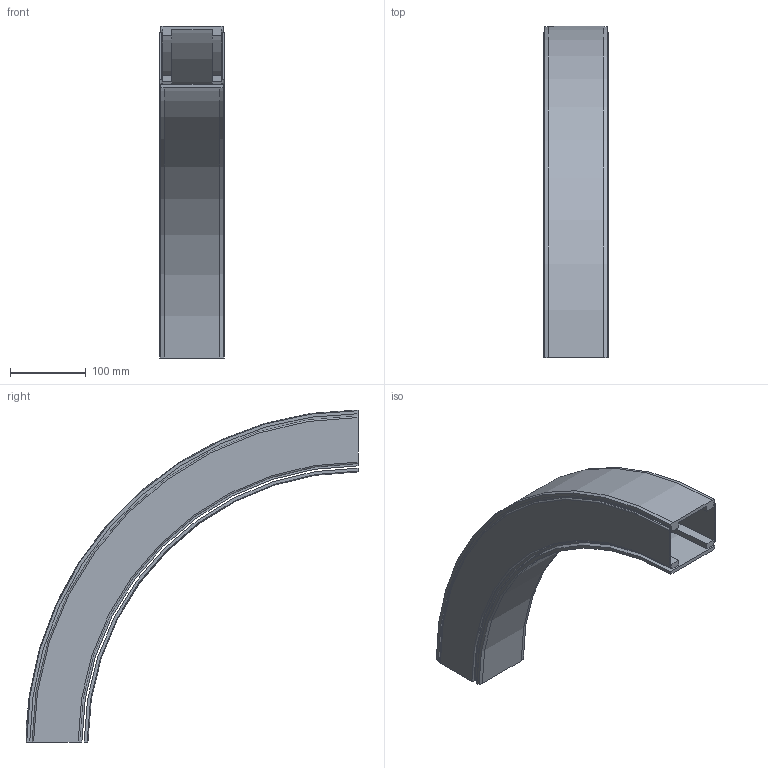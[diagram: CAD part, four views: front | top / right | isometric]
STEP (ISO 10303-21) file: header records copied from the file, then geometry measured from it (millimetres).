
FILE_DESCRIPTION((''),'2;1');
FILE_NAME('C:\Vault Klient\Projekt\Koncept konstruktion\Serie 530 Balk\530-5640_DOWN.stp','2010-11-23T11:39:14',('Mathias'),(''),'Autodesk Inventor 2011','Autodesk Inventor 2011','');
FILE_SCHEMA(('AUTOMOTIVE_DESIGN { 1 0 10303 214 1 1 1 1 }'));
Length unit declared in the file: millimetre
Products named in the file (1): 530-5640_DOWN
Bounding box: 86 x 439.5 x 439.5 mm (x, y, z)
Volume: 930845.8 mm3; surface area: 451184.6 mm2
Topology: 2 solids, 2 shells, 87 faces, 234 edges, 156 vertices
Faces by surface type: plane 40, cylinder 25, bspline 14, cone 4, torus 4
Entity records: 3154 total; most frequent: CARTESIAN_POINT 916, ORIENTED_EDGE 468, DIRECTION 428, EDGE_CURVE 234, VERTEX_POINT 156, AXIS2_PLACEMENT_3D 148, VECTOR 132, LINE 132
